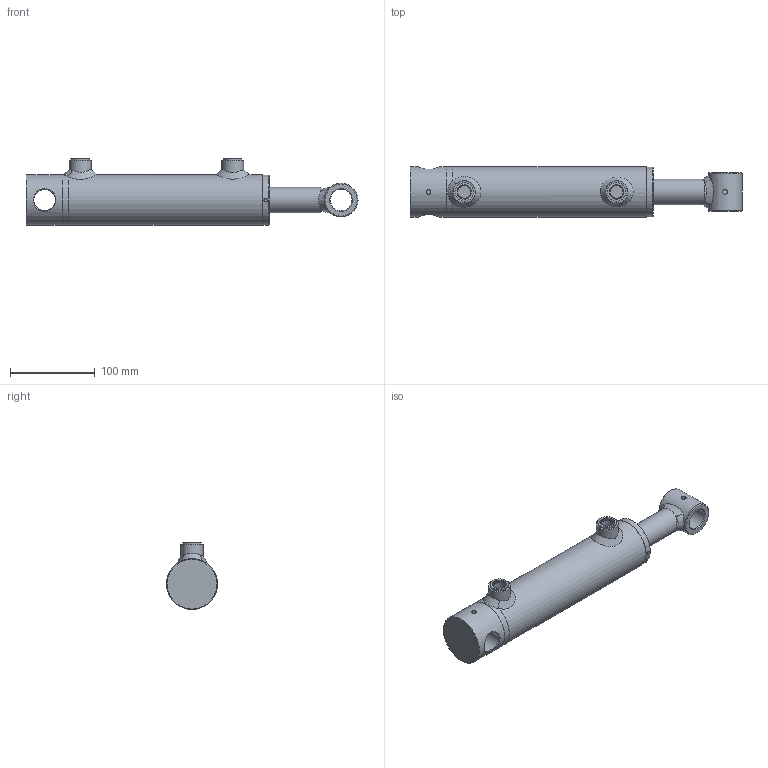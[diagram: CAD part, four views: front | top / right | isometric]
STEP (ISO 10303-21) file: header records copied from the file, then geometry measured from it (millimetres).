
FILE_DESCRIPTION( ( 'Unknown' ), '1' );
FILE_NAME( 'E:/LIBRERIA_3d/CILINDRI/HFR2S/HFR2S0500300150.stp', 'Unknown', ( 'Unknown' ), ( 'Unknown' ), 'PSStep 17.0.49', 'Unknown', ' ' );
FILE_SCHEMA( ( 'AUTOMOTIVE_DESIGN { 1 0 10303 214 1 1 1 1 }' ) );
Length unit declared in the file: millimetre
Products named in the file (21): CG06005030; STF2R0500500150-oa5; Saldatura d'angolo 1-oa3; MAT_PRIMA_TUBO_FT06005000-oa4; CBS0600000; CTLM050021030; Assem1; CFHR050025049; Saldatura con preparazione 1-oa0; Saldatura d'angolo 1-oa1; Saldatura d'angolo 2-oa2; CBF1025040045; CDB0002015; APG0600000; SBF2R300500150
Assembly tree (16 placements, depth 3):
  Saldatura d'angolo 1-oa3
  Saldatura d'angolo 1-oa3
  Assem1
    CFHR050025049
    Saldatura con preparazione 1-oa0
    Saldatura con preparazione 1-oa0
    CBS0600000
    CBF1025040045
    CDB0002015
    APG0600000  x2
    SBF2R300500150
    CG06005030
      CG06005030
    CTLM050021030
      CTLM050021030
    STF2R0500500150-oa5
      MAT_PRIMA_TUBO_FT06005000-oa4
      CBS0600000
  Saldatura d'angolo 1-oa1
  Saldatura d'angolo 1-oa1
Bounding box: 392 x 60 x 79 mm (x, y, z)
Volume: 654501.7 mm3; surface area: 199476.1 mm2
Topology: 19 solids, 19 shells, 238 faces, 489 edges, 294 vertices
Faces by surface type: cylinder 59, plane 59, bspline 44, torus 39, cone 37
Full cylindrical faces by diameter (mm): 4 x2, 5 x2, 5.5 x2, 7 x2, 14.95 x2, 16 x2, 16.6 x2, 20 x2, 21 x3, 22 x2, 25.25 x2, 25.5 x1, 26 x2, 30 x5, 32 x1, 33 x1, 36 x1, 38.6 x1, 40 x3, 45 x1, 47 x2, 49 x2, 49.9 x1, 50 x1, 50.3 x1, 50.5 x1, 50.6 x1, 51 x1, 52 x3, 52.376 x1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
Entity records: 13516 total; most frequent: CARTESIAN_POINT 7853, DIRECTION 754, ORIENTED_EDGE 560, EDGE_LOOP 398, AXIS2_PLACEMENT_3D 365, FACE_OUTER_BOUND 320, EDGE_CURVE 280, VERTEX_POINT 234
